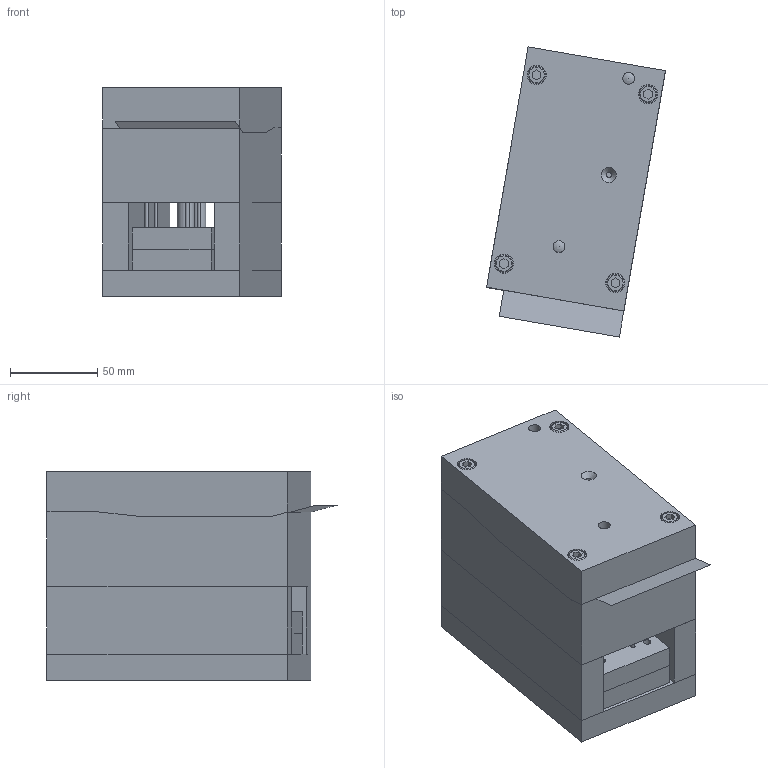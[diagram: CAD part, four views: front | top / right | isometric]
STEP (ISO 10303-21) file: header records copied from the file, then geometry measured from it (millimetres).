
FILE_DESCRIPTION(/* description */ (''),/* implementation_level */ '2;1');
FILE_NAME(/* name */ 'MOULE CLIP FLD.step',/* time_stamp */ '2023-08-10T15:25:46+02:00',/* author */ (''),/* organization */ (''),/* preprocessor_version */ 'ST-DEVELOPER v20',/* originating_system */ 'Autodesk Translation Framework v12.9.0.99',/* authorisation */ '');
FILE_SCHEMA (('AUTOMOTIVE_DESIGN { 1 0 10303 214 3 1 1 }'));
Products named in the file (32): clip dépouilles V2; PARTIE FIXE; E_1301_8x16_1 (1) v1; EMPREINTE FIXE; PARTIE MOBILE; PM; noyau; E_1200_8x20_2 v1; EMPREINTE MOBILE; Tasseau 1; tasseau 2; semelle fixe; E 1230_12x20; batterie ejection; E 1710_8x80; E 1710_10x80; E 1710_2x80; E 1200_5x16; E 1710_2x80 (1); E 1710_2x80 (2); E 1710_2x80 (3); E 1710_2x80 (4); E 1710_2x80 (5); E 1710_2x80 (6); E 1710_2x80 (7); visserie etc; E 1200_6x55; insert; clip; PLAN DE JOINT; VISSERIE; E 1200_6x25
Assembly tree (41 placements, depth 4):
  clip dépouilles V2
    PARTIE FIXE
      E_1301_8x16_1 (1) v1  x2
      EMPREINTE FIXE
    PARTIE MOBILE
      PM
        noyau
        E_1200_8x20_2 v1
        EMPREINTE MOBILE
      Tasseau 1
      tasseau 2
      semelle fixe
        E 1230_12x20
      batterie ejection
        E 1710_8x80
        E 1710_10x80
        E 1710_2x80
        E 1200_5x16  x4
        E 1710_2x80 (1)
        E 1710_2x80 (2)
        E 1710_2x80 (3)
        E 1710_2x80 (4)
        E 1710_2x80 (5)
        E 1710_2x80 (6)
        E 1710_2x80 (7)
      visserie etc
        E 1200_6x55  x4
    insert
    clip
    PLAN DE JOINT
    VISSERIE
      E 1200_6x25  x4
Bounding box: 102.72 x 166.6 x 120 mm (x, y, z)
Volume: 1208417 mm3; surface area: 240647.5 mm2
Topology: 36 solids, 37 shells, 922 faces, 2177 edges, 1399 vertices
Faces by surface type: plane 357, cylinder 208, bspline 144, cone 123, torus 86, sphere 4
Full cylindrical faces by diameter (mm): 2 x16, 2.5 x8, 3.3 x1, 3.332 x1, 3.349 x1, 4 x8, 4.234 x4, 4.5 x1, 5 x20, 5.035 x8, 5.5 x4, 6 x10, 6.02 x8, 6.09 x2, 6.75 x6, 6.779 x1, 7 x12, 8 x9, 8.5 x5, 10 x18, 10.274 x1, 10.5 x1, 11 x8, 12 x1, 13 x1, 14 x1, 15 x5, 16 x1, 17 x1, 30.2 x2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
Entity records: 44638 total; most frequent: CARTESIAN_POINT 26317, ORIENTED_EDGE 3643, DIRECTION 3449, EDGE_CURVE 1846, AXIS2_PLACEMENT_3D 1389, VERTEX_POINT 1197, EDGE_LOOP 935, FACE_OUTER_BOUND 766
